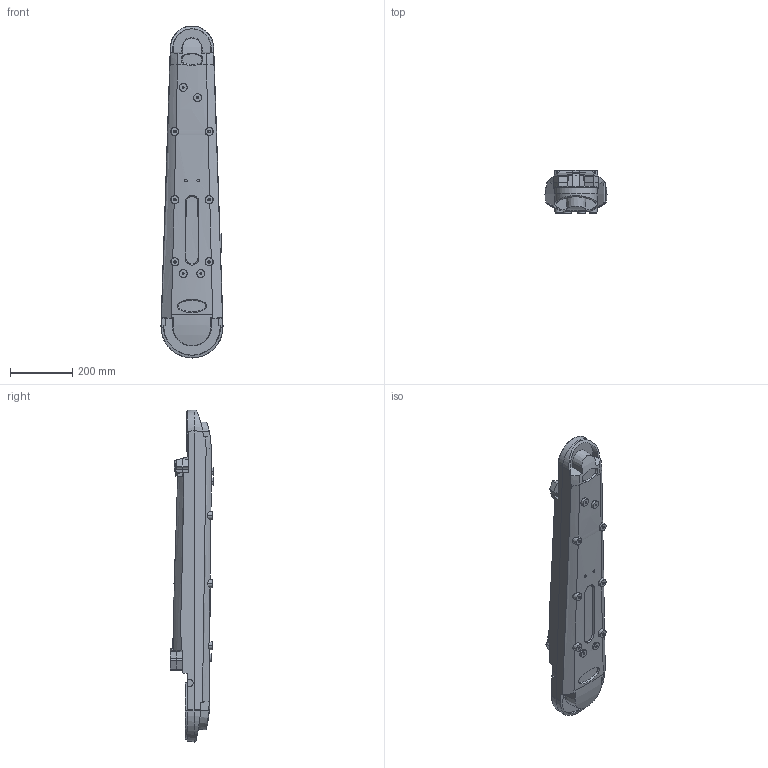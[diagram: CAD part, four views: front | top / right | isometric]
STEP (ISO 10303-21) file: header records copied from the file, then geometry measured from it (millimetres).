
FILE_DESCRIPTION (( 'STEP AP214' ), '1' );
FILE_NAME ('Link2L.STEP', '2010-11-24T19:07:15', ( 'Kåre Folkeson' ), ( 'Virtual Manufacturing AB' ), 'SwSTEP 2.0', 'SolidWorks 2009', '' );
FILE_SCHEMA (( 'AUTOMOTIVE_DESIGN' ));
Length unit declared in the file: millimetre
Products named in the file (1): Link2L
Bounding box: 200 x 141.6 x 1070 mm (x, y, z)
Volume: 15671186.5 mm3; surface area: 629687.6 mm2
Topology: 5 solids, 7 shells, 431 faces, 1080 edges, 692 vertices
Faces by surface type: plane 209, cone 116, bspline 59, cylinder 47
Entity records: 20260 total; most frequent: CARTESIAN_POINT 10613, ORIENTED_EDGE 2152, DIRECTION 1698, EDGE_CURVE 1076, VERTEX_POINT 692, VECTOR 580, LINE 580, AXIS2_PLACEMENT_3D 559
